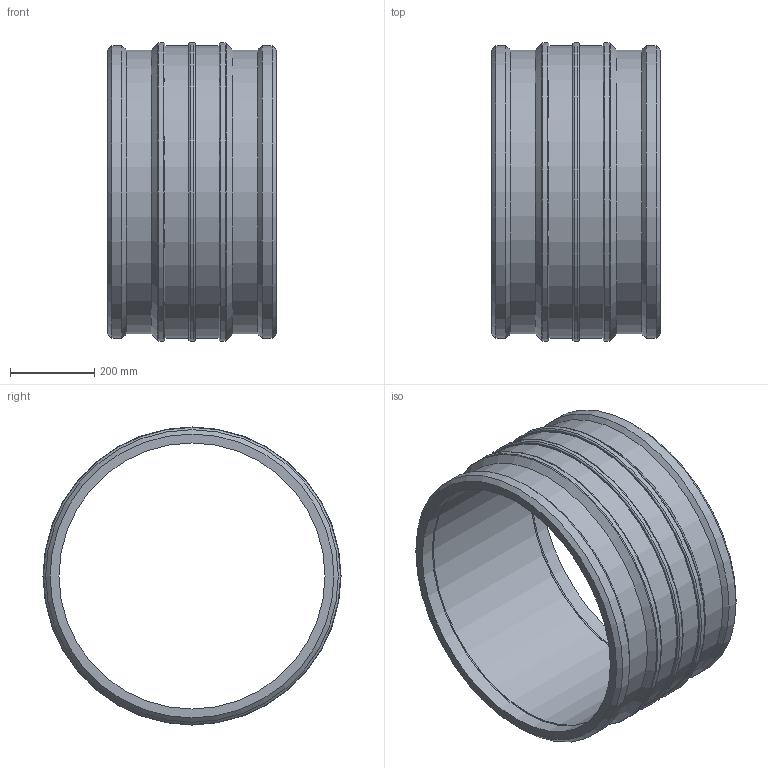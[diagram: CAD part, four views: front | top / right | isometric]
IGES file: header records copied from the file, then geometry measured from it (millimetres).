
Global section: file name: 460103630N.ipt; native system: Autodesk Inventor 2015; preprocessor: unknown; author: KIM; date: 20190124.125939; units: millimetre
Bounding box: 400 x 706 x 706 mm (x, y, z)
Volume: 23460961.6 mm3; surface area: 1860509.3 mm2
Topology: 1 solids, 1 shells, 48 faces, 106 edges, 70 vertices
Faces by surface type: cylinder 15, plane 14, revolution 13, cone 6
Full cylindrical faces by diameter (mm): 4 x2, 672.21 x2, 691.88 x2, 693 x2, 706 x3
